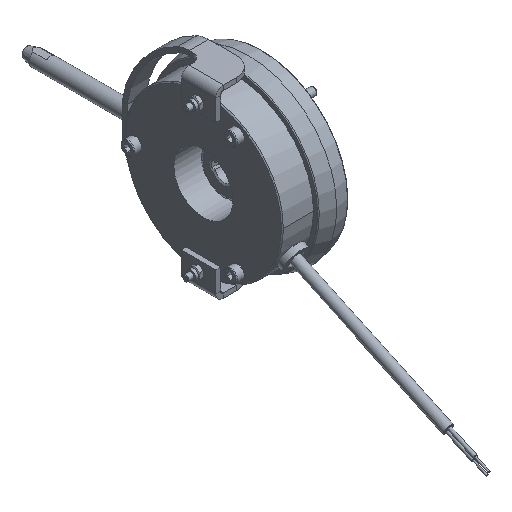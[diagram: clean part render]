
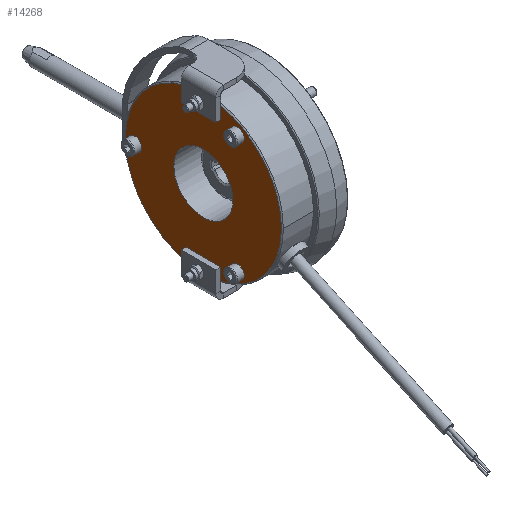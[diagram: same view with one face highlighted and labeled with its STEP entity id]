
A CAD part, isometric view. The second image highlights one B-rep face of the part: STEP entity #14268.
In plain terms, the highlighted planar face has unit normal (-1, 0, 0).
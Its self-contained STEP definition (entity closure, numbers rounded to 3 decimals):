
#261=FACE_BOUND('',#2012,.T.);
#262=FACE_BOUND('',#2013,.T.);
#263=FACE_BOUND('',#2014,.T.);
#264=FACE_BOUND('',#2015,.T.);
#612=PLANE('',#15549);
#1231=FACE_OUTER_BOUND('',#2011,.T.);
#2011=EDGE_LOOP('',(#11836,#11837,#11838,#11839,#11840,#11841,#11842,#11843,
#11844));
#2012=EDGE_LOOP('',(#11845,#11846));
#2013=EDGE_LOOP('',(#11847,#11848));
#2014=EDGE_LOOP('',(#11849));
#2015=EDGE_LOOP('',(#11850,#11851));
#2840=CIRCLE('',#14945,3.5);
#2841=CIRCLE('',#14946,3.5);
#2854=CIRCLE('',#14973,3.5);
#2855=CIRCLE('',#14974,3.5);
#3159=CIRCLE('',#15550,41.);
#3160=CIRCLE('',#15551,41.);
#3161=CIRCLE('',#15552,41.);
#3162=CIRCLE('',#15553,15.5);
#3163=CIRCLE('',#15554,3.5);
#3164=CIRCLE('',#15555,3.5);
#3845=LINE('',#28232,#4690);
#3851=LINE('',#28249,#4696);
#3855=LINE('',#28255,#4700);
#3866=LINE('',#28284,#4711);
#3873=LINE('',#28300,#4718);
#3875=LINE('',#28303,#4720);
#4690=VECTOR('',#17978,10.);
#4696=VECTOR('',#17998,10.);
#4700=VECTOR('',#18004,10.);
#4711=VECTOR('',#18033,10.);
#4718=VECTOR('',#18050,10.);
#4720=VECTOR('',#18054,10.);
#5585=VERTEX_POINT('',#25015);
#5586=VERTEX_POINT('',#25016);
#5612=VERTEX_POINT('',#25107);
#5613=VERTEX_POINT('',#25108);
#5931=VERTEX_POINT('',#28174);
#5932=VERTEX_POINT('',#28175);
#5952=VERTEX_POINT('',#28229);
#5953=VERTEX_POINT('',#28231);
#5954=VERTEX_POINT('',#28235);
#5957=VERTEX_POINT('',#28248);
#5967=VERTEX_POINT('',#28283);
#5971=VERTEX_POINT('',#28298);
#6172=VERTEX_POINT('',#29121);
#6173=VERTEX_POINT('',#29125);
#6174=VERTEX_POINT('',#29127);
#6175=VERTEX_POINT('',#29128);
#7224=EDGE_CURVE('',#5585,#5586,#2840,.T.);
#7225=EDGE_CURVE('',#5586,#5585,#2841,.T.);
#7261=EDGE_CURVE('',#5612,#5613,#2854,.T.);
#7262=EDGE_CURVE('',#5613,#5612,#2855,.T.);
#7756=EDGE_CURVE('',#5953,#5952,#3845,.T.);
#7765=EDGE_CURVE('',#5957,#5954,#3851,.T.);
#7769=EDGE_CURVE('',#5952,#5957,#3855,.T.);
#7783=EDGE_CURVE('',#5967,#5931,#3866,.T.);
#7792=EDGE_CURVE('',#5932,#5971,#3873,.T.);
#7794=EDGE_CURVE('',#5971,#5967,#3875,.T.);
#8123=EDGE_CURVE('',#6172,#5954,#3159,.T.);
#8124=EDGE_CURVE('',#5932,#6172,#3160,.T.);
#8125=EDGE_CURVE('',#5953,#5931,#3161,.T.);
#8126=EDGE_CURVE('',#6173,#6173,#3162,.T.);
#8127=EDGE_CURVE('',#6174,#6175,#3163,.T.);
#8128=EDGE_CURVE('',#6175,#6174,#3164,.T.);
#11836=ORIENTED_EDGE('',*,*,#7765,.T.);
#11837=ORIENTED_EDGE('',*,*,#8123,.F.);
#11838=ORIENTED_EDGE('',*,*,#8124,.F.);
#11839=ORIENTED_EDGE('',*,*,#7792,.T.);
#11840=ORIENTED_EDGE('',*,*,#7794,.T.);
#11841=ORIENTED_EDGE('',*,*,#7783,.T.);
#11842=ORIENTED_EDGE('',*,*,#8125,.F.);
#11843=ORIENTED_EDGE('',*,*,#7756,.T.);
#11844=ORIENTED_EDGE('',*,*,#7769,.T.);
#11845=ORIENTED_EDGE('',*,*,#7224,.T.);
#11846=ORIENTED_EDGE('',*,*,#7225,.T.);
#11847=ORIENTED_EDGE('',*,*,#7261,.T.);
#11848=ORIENTED_EDGE('',*,*,#7262,.T.);
#11849=ORIENTED_EDGE('',*,*,#8126,.T.);
#11850=ORIENTED_EDGE('',*,*,#8127,.T.);
#11851=ORIENTED_EDGE('',*,*,#8128,.T.);
#14268=ADVANCED_FACE('',(#1231,#261,#262,#263,#264),#612,.T.);
#14945=AXIS2_PLACEMENT_3D('',#25017,#17161,#17162);
#14946=AXIS2_PLACEMENT_3D('',#25018,#17163,#17164);
#14973=AXIS2_PLACEMENT_3D('',#25109,#17233,#17234);
#14974=AXIS2_PLACEMENT_3D('',#25110,#17235,#17236);
#15549=AXIS2_PLACEMENT_3D('',#29120,#18763,#18764);
#15550=AXIS2_PLACEMENT_3D('',#29122,#18765,#18766);
#15551=AXIS2_PLACEMENT_3D('',#29123,#18767,#18768);
#15552=AXIS2_PLACEMENT_3D('',#29124,#18769,#18770);
#15553=AXIS2_PLACEMENT_3D('',#29126,#18771,#18772);
#15554=AXIS2_PLACEMENT_3D('',#29129,#18773,#18774);
#15555=AXIS2_PLACEMENT_3D('',#29130,#18775,#18776);
#17161=DIRECTION('center_axis',(1.,0.,0.));
#17162=DIRECTION('ref_axis',(0.,0.5,-0.866));
#17163=DIRECTION('center_axis',(1.,0.,0.));
#17164=DIRECTION('ref_axis',(0.,0.5,-0.866));
#17233=DIRECTION('center_axis',(1.,0.,0.));
#17234=DIRECTION('ref_axis',(0.,0.5,-0.866));
#17235=DIRECTION('center_axis',(1.,0.,0.));
#17236=DIRECTION('ref_axis',(0.,0.5,-0.866));
#17978=DIRECTION('',(0.,0.,-1.));
#17998=DIRECTION('',(0.,0.,1.));
#18004=DIRECTION('',(0.,1.,0.));
#18033=DIRECTION('',(0.,0.,-1.));
#18050=DIRECTION('',(0.,0.,1.));
#18054=DIRECTION('',(0.,-1.,0.));
#18763=DIRECTION('center_axis',(-1.,0.,0.));
#18764=DIRECTION('ref_axis',(0.,0.,1.));
#18765=DIRECTION('center_axis',(1.,0.,0.));
#18766=DIRECTION('ref_axis',(0.,-1.,0.));
#18767=DIRECTION('center_axis',(1.,0.,0.));
#18768=DIRECTION('ref_axis',(0.,-1.,0.));
#18769=DIRECTION('center_axis',(1.,0.,0.));
#18770=DIRECTION('ref_axis',(0.,-1.,0.));
#18771=DIRECTION('center_axis',(1.,0.,0.));
#18772=DIRECTION('ref_axis',(0.,0.,1.));
#18773=DIRECTION('center_axis',(1.,0.,0.));
#18774=DIRECTION('ref_axis',(0.,0.5,0.866));
#18775=DIRECTION('center_axis',(1.,0.,0.));
#18776=DIRECTION('ref_axis',(0.,0.5,0.866));
#25015=CARTESIAN_POINT('',(-18.7,-16.25,-34.208));
#25016=CARTESIAN_POINT('',(-18.7,-19.75,-28.146));
#25017=CARTESIAN_POINT('Origin',(-18.7,-18.,-31.177));
#25018=CARTESIAN_POINT('Origin',(-18.7,-18.,-31.177));
#25107=CARTESIAN_POINT('',(-18.7,-16.25,28.146));
#25108=CARTESIAN_POINT('',(-18.7,-19.75,34.208));
#25109=CARTESIAN_POINT('Origin',(-18.7,-18.,31.177));
#25110=CARTESIAN_POINT('Origin',(-18.7,-18.,31.177));
#28174=CARTESIAN_POINT('',(-18.7,-9.,-40.));
#28175=CARTESIAN_POINT('',(-18.7,9.,-40.));
#28229=CARTESIAN_POINT('',(-18.7,-9.,33.5));
#28231=CARTESIAN_POINT('',(-18.7,-9.,40.));
#28232=CARTESIAN_POINT('',(-18.7,-9.,22.25));
#28235=CARTESIAN_POINT('',(-18.7,9.,40.));
#28248=CARTESIAN_POINT('',(-18.7,9.,33.5));
#28249=CARTESIAN_POINT('',(-18.7,9.,22.25));
#28255=CARTESIAN_POINT('',(-18.7,14.875,33.5));
#28283=CARTESIAN_POINT('',(-18.7,-9.,-33.5));
#28284=CARTESIAN_POINT('',(-18.7,-9.,-22.25));
#28298=CARTESIAN_POINT('',(-18.7,9.,-33.5));
#28300=CARTESIAN_POINT('',(-18.7,9.,-22.25));
#28303=CARTESIAN_POINT('',(-18.7,14.875,-33.5));
#29120=CARTESIAN_POINT('Origin',(-18.7,20.75,0.));
#29121=CARTESIAN_POINT('',(-18.7,41.,0.));
#29122=CARTESIAN_POINT('Origin',(-18.7,0.,0.));
#29123=CARTESIAN_POINT('Origin',(-18.7,0.,0.));
#29124=CARTESIAN_POINT('Origin',(-18.7,0.,0.));
#29125=CARTESIAN_POINT('',(-18.7,0.,-15.5));
#29126=CARTESIAN_POINT('Origin',(-18.7,0.,0.));
#29127=CARTESIAN_POINT('',(-18.7,37.75,3.031));
#29128=CARTESIAN_POINT('',(-18.7,34.25,-3.031));
#29129=CARTESIAN_POINT('Origin',(-18.7,36.,0.));
#29130=CARTESIAN_POINT('Origin',(-18.7,36.,0.));
